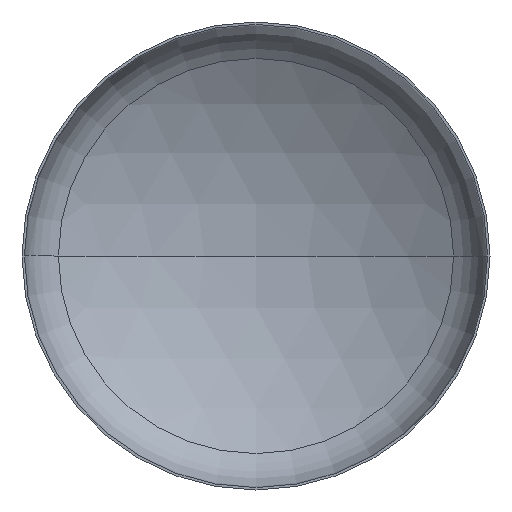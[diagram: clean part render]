
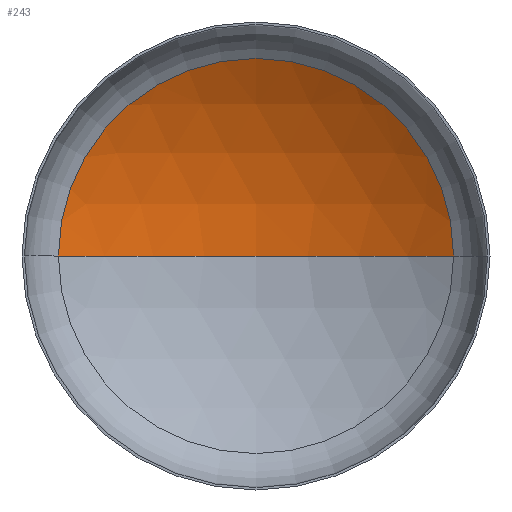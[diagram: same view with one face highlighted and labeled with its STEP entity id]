
A CAD part, front view. The second image highlights one B-rep face of the part: STEP entity #243.
In plain terms, the highlighted spherical face has radius 3200 mm.
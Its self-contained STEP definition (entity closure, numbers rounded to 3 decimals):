
#5 = ORIENTED_EDGE ( 'NONE', *, *, #343, .T. ) ;
#22 = VERTEX_POINT ( 'NONE', #265 ) ;
#26 = VERTEX_POINT ( 'NONE', #257 ) ;
#29 = VERTEX_POINT ( 'NONE', #239 ) ;
#42 = ORIENTED_EDGE ( 'NONE', *, *, #348, .F. ) ;
#47 = AXIS2_PLACEMENT_3D ( 'NONE', #240, #129, #139 ) ;
#57 = AXIS2_PLACEMENT_3D ( 'NONE', #368, #157, #162 ) ;
#59 = AXIS2_PLACEMENT_3D ( 'NONE', #215, #397, #340 ) ;
#91 = AXIS2_PLACEMENT_3D ( 'NONE', #120, #261, #201 ) ;
#120 = CARTESIAN_POINT ( 'NONE',  ( 0., -2125.844, 0. ) ) ;
#129 = DIRECTION ( 'NONE',  ( 0., 0., 1. ) ) ;
#139 = DIRECTION ( 'NONE',  ( 1., 0., 0. ) ) ;
#157 = DIRECTION ( 'NONE',  ( 0., 0., -1. ) ) ;
#162 = DIRECTION ( 'NONE',  ( -1., 0., 0. ) ) ;
#171 = CIRCLE ( 'NONE', #57, 3200. ) ;
#179 = CIRCLE ( 'NONE', #59, 1688.511 ) ;
#201 = DIRECTION ( 'NONE',  ( -1., 0., 0. ) ) ;
#215 = CARTESIAN_POINT ( 'NONE',  ( 0., 592.415, 0. ) ) ;
#239 = CARTESIAN_POINT ( 'NONE',  ( 1688.511, 592.415, 0. ) ) ;
#240 = CARTESIAN_POINT ( 'NONE',  ( 0., -2125.844, 0. ) ) ;
#243 = ADVANCED_FACE ( 'NONE', ( #411 ), #266, .F. ) ;
#257 = CARTESIAN_POINT ( 'NONE',  ( -1688.511, 592.415, 0. ) ) ;
#261 = DIRECTION ( 'NONE',  ( 0., 0., -1. ) ) ;
#265 = CARTESIAN_POINT ( 'NONE',  ( 0., 1074.156, 0. ) ) ;
#266 = SPHERICAL_SURFACE ( 'NONE', #91, 3200. ) ;
#309 = CIRCLE ( 'NONE', #47, 3200. ) ;
#322 = EDGE_LOOP ( 'NONE', ( #42, #5, #407 ) ) ;
#339 = EDGE_CURVE ( 'NONE', #29, #26, #179, .T. ) ;
#340 = DIRECTION ( 'NONE',  ( 1., 0., 0. ) ) ;
#343 = EDGE_CURVE ( 'NONE', #22, #29, #171, .T. ) ;
#348 = EDGE_CURVE ( 'NONE', #22, #26, #309, .T. ) ;
#368 = CARTESIAN_POINT ( 'NONE',  ( 0., -2125.844, 0. ) ) ;
#397 = DIRECTION ( 'NONE',  ( 0., -1., 0. ) ) ;
#407 = ORIENTED_EDGE ( 'NONE', *, *, #339, .T. ) ;
#411 = FACE_OUTER_BOUND ( 'NONE', #322, .T. ) ;
